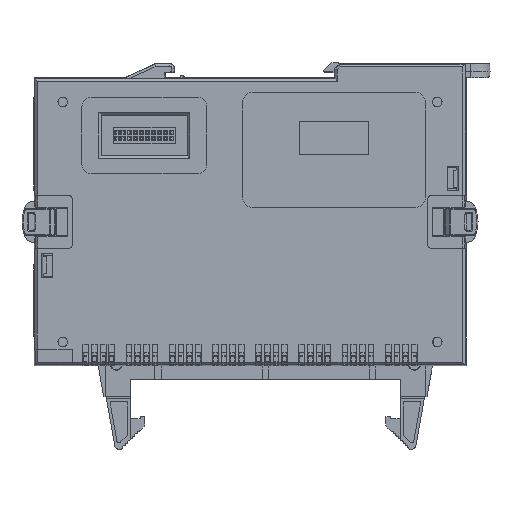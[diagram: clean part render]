
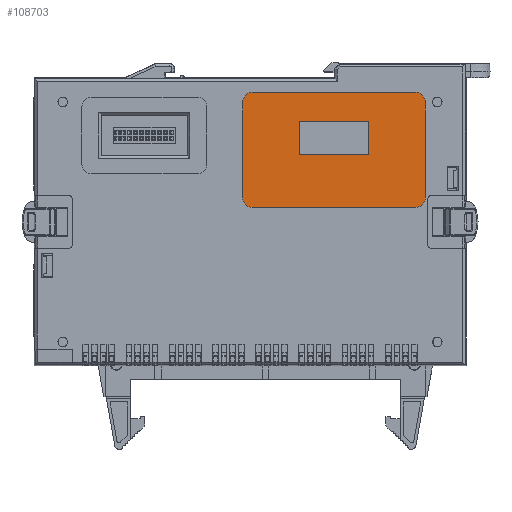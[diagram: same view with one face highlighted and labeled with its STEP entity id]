
A CAD part, left-side view. The second image highlights one B-rep face of the part: STEP entity #108703.
In plain terms, the highlighted planar face has unit normal (-1, 0, 0).
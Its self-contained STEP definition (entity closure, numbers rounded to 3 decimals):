
#911 = VECTOR ( 'NONE', #112579, 1000. ) ;
#1573 = DIRECTION ( 'NONE',  ( 0., 1., 0. ) ) ;
#3047 = ORIENTED_EDGE ( 'NONE', *, *, #83606, .F. ) ;
#4027 = EDGE_CURVE ( 'NONE', #125131, #102165, #14998, .T. ) ;
#5981 = EDGE_CURVE ( 'NONE', #47350, #19620, #6424, .T. ) ;
#6424 = CIRCLE ( 'NONE', #72035, 2. ) ;
#7837 = CARTESIAN_POINT ( 'NONE',  ( 95.144, -3.53, 61.4 ) ) ;
#7959 = CARTESIAN_POINT ( 'NONE',  ( 95.144, 6.22, 50.4 ) ) ;
#10362 = EDGE_CURVE ( 'NONE', #129480, #27140, #125534, .T. ) ;
#12809 = ORIENTED_EDGE ( 'NONE', *, *, #33534, .T. ) ;
#12904 = FACE_BOUND ( 'NONE', #54599, .T. ) ;
#14998 = LINE ( 'NONE', #70926, #121369 ) ;
#15646 = CARTESIAN_POINT ( 'NONE',  ( 95.144, -29.78, 52.4 ) ) ;
#16313 = DIRECTION ( 'NONE',  ( 0., 1., 0. ) ) ;
#16607 = DIRECTION ( 'NONE',  ( -1., 0., 0. ) ) ;
#19429 = DIRECTION ( 'NONE',  ( 0., 0., -1. ) ) ;
#19519 = VERTEX_POINT ( 'NONE', #57114 ) ;
#19589 = LINE ( 'NONE', #43648, #125898 ) ;
#19620 = VERTEX_POINT ( 'NONE', #112279 ) ;
#21852 = AXIS2_PLACEMENT_3D ( 'NONE', #138460, #74677, #54831 ) ;
#24264 = VECTOR ( 'NONE', #83618, 1000. ) ;
#26045 = AXIS2_PLACEMENT_3D ( 'NONE', #59534, #26219, #28300 ) ;
#26219 = DIRECTION ( 'NONE',  ( -1., 0., 0. ) ) ;
#27140 = VERTEX_POINT ( 'NONE', #7959 ) ;
#28300 = DIRECTION ( 'NONE',  ( 0., 0., 1. ) ) ;
#30322 = CARTESIAN_POINT ( 'NONE',  ( 95.144, -29.78, 72.4 ) ) ;
#33389 = ORIENTED_EDGE ( 'NONE', *, *, #5981, .T. ) ;
#33534 = EDGE_CURVE ( 'NONE', #61217, #47350, #100553, .T. ) ;
#34976 = CARTESIAN_POINT ( 'NONE',  ( 95.144, 6.22, 74.4 ) ) ;
#35272 = VERTEX_POINT ( 'NONE', #39453 ) ;
#35974 = VERTEX_POINT ( 'NONE', #88635 ) ;
#39453 = CARTESIAN_POINT ( 'NONE',  ( 95.144, -3.53, 61.4 ) ) ;
#39982 = EDGE_CURVE ( 'NONE', #140231, #61217, #58884, .T. ) ;
#42959 = EDGE_CURVE ( 'NONE', #19519, #129480, #117166, .T. ) ;
#43648 = CARTESIAN_POINT ( 'NONE',  ( 95.144, 6.22, 50.4 ) ) ;
#44473 = DIRECTION ( 'NONE',  ( -1., 0., 0. ) ) ;
#45171 = CARTESIAN_POINT ( 'NONE',  ( 95.144, -27.78, 52.4 ) ) ;
#46254 = CARTESIAN_POINT ( 'NONE',  ( 95.144, 6.22, 74.4 ) ) ;
#46963 = VECTOR ( 'NONE', #111379, 1000. ) ;
#47350 = VERTEX_POINT ( 'NONE', #30322 ) ;
#53268 = EDGE_CURVE ( 'NONE', #35272, #125131, #85706, .T. ) ;
#53433 = CARTESIAN_POINT ( 'NONE',  ( 95.144, 8.22, 52.4 ) ) ;
#54599 = EDGE_LOOP ( 'NONE', ( #3047, #113867, #125972, #70553 ) ) ;
#54831 = DIRECTION ( 'NONE',  ( 0., 0., -1. ) ) ;
#55412 = DIRECTION ( 'NONE',  ( -1., 0., 0. ) ) ;
#57114 = CARTESIAN_POINT ( 'NONE',  ( 95.144, 8.22, 72.4 ) ) ;
#58884 = CIRCLE ( 'NONE', #113117, 2. ) ;
#59534 = CARTESIAN_POINT ( 'NONE',  ( 95.144, 6.22, 52.4 ) ) ;
#59539 = LINE ( 'NONE', #79359, #71411 ) ;
#61217 = VERTEX_POINT ( 'NONE', #15646 ) ;
#61752 = CARTESIAN_POINT ( 'NONE',  ( 95.144, 8.22, 52.4 ) ) ;
#64902 = DIRECTION ( 'NONE',  ( 0., -1., 0. ) ) ;
#64925 = DIRECTION ( 'NONE',  ( 0., 0., -1. ) ) ;
#70553 = ORIENTED_EDGE ( 'NONE', *, *, #53268, .F. ) ;
#70926 = CARTESIAN_POINT ( 'NONE',  ( 95.144, -18.03, 61.4 ) ) ;
#71411 = VECTOR ( 'NONE', #16313, 1000. ) ;
#72035 = AXIS2_PLACEMENT_3D ( 'NONE', #114312, #16607, #134220 ) ;
#74677 = DIRECTION ( 'NONE',  ( -1., 0., 0. ) ) ;
#74780 = EDGE_CURVE ( 'NONE', #27140, #140231, #19589, .T. ) ;
#75944 = PLANE ( 'NONE',  #126614 ) ;
#76201 = EDGE_CURVE ( 'NONE', #137579, #19519, #82919, .T. ) ;
#78622 = CARTESIAN_POINT ( 'NONE',  ( 95.144, -29.78, 52.4 ) ) ;
#79359 = CARTESIAN_POINT ( 'NONE',  ( 95.144, -3.53, 68.4 ) ) ;
#80212 = LINE ( 'NONE', #46254, #46963 ) ;
#82919 = CIRCLE ( 'NONE', #21852, 2. ) ;
#83606 = EDGE_CURVE ( 'NONE', #35974, #35272, #110177, .T. ) ;
#83618 = DIRECTION ( 'NONE',  ( 0., -1., 0. ) ) ;
#85706 = LINE ( 'NONE', #7837, #24264 ) ;
#88635 = CARTESIAN_POINT ( 'NONE',  ( 95.144, -3.53, 68.4 ) ) ;
#92140 = DIRECTION ( 'NONE',  ( 0., 0., 1. ) ) ;
#97889 = CARTESIAN_POINT ( 'NONE',  ( 95.144, 6.72, 47.4 ) ) ;
#100553 = LINE ( 'NONE', #78622, #911 ) ;
#102165 = VERTEX_POINT ( 'NONE', #124520 ) ;
#104705 = EDGE_CURVE ( 'NONE', #19620, #137579, #80212, .T. ) ;
#105870 = ORIENTED_EDGE ( 'NONE', *, *, #39982, .T. ) ;
#108703 = ADVANCED_FACE ( 'NONE', ( #12904, #109200 ), #75944, .T. ) ;
#108779 = CARTESIAN_POINT ( 'NONE',  ( 95.144, -3.53, 61.4 ) ) ;
#108808 = EDGE_LOOP ( 'NONE', ( #130844, #128297, #127699, #114059, #105870, #12809, #33389, #135822 ) ) ;
#109200 = FACE_OUTER_BOUND ( 'NONE', #108808, .T. ) ;
#110177 = LINE ( 'NONE', #108779, #133883 ) ;
#111379 = DIRECTION ( 'NONE',  ( 0., 1., 0. ) ) ;
#112279 = CARTESIAN_POINT ( 'NONE',  ( 95.144, -27.78, 74.4 ) ) ;
#112579 = DIRECTION ( 'NONE',  ( 0., 0., 1. ) ) ;
#113117 = AXIS2_PLACEMENT_3D ( 'NONE', #45171, #44473, #131589 ) ;
#113867 = ORIENTED_EDGE ( 'NONE', *, *, #132855, .F. ) ;
#114059 = ORIENTED_EDGE ( 'NONE', *, *, #74780, .T. ) ;
#114312 = CARTESIAN_POINT ( 'NONE',  ( 95.144, -27.78, 72.4 ) ) ;
#117166 = LINE ( 'NONE', #53433, #118190 ) ;
#117686 = CARTESIAN_POINT ( 'NONE',  ( 95.144, -18.03, 61.4 ) ) ;
#118190 = VECTOR ( 'NONE', #19429, 1000. ) ;
#121369 = VECTOR ( 'NONE', #92140, 1000. ) ;
#124520 = CARTESIAN_POINT ( 'NONE',  ( 95.144, -18.03, 68.4 ) ) ;
#125090 = CARTESIAN_POINT ( 'NONE',  ( 95.144, -27.78, 50.4 ) ) ;
#125131 = VERTEX_POINT ( 'NONE', #117686 ) ;
#125534 = CIRCLE ( 'NONE', #26045, 2. ) ;
#125898 = VECTOR ( 'NONE', #64902, 1000. ) ;
#125972 = ORIENTED_EDGE ( 'NONE', *, *, #4027, .F. ) ;
#126614 = AXIS2_PLACEMENT_3D ( 'NONE', #97889, #55412, #1573 ) ;
#127699 = ORIENTED_EDGE ( 'NONE', *, *, #10362, .T. ) ;
#128297 = ORIENTED_EDGE ( 'NONE', *, *, #42959, .T. ) ;
#129480 = VERTEX_POINT ( 'NONE', #61752 ) ;
#130844 = ORIENTED_EDGE ( 'NONE', *, *, #76201, .T. ) ;
#131589 = DIRECTION ( 'NONE',  ( 0., 0., 1. ) ) ;
#132855 = EDGE_CURVE ( 'NONE', #102165, #35974, #59539, .T. ) ;
#133883 = VECTOR ( 'NONE', #64925, 1000. ) ;
#134220 = DIRECTION ( 'NONE',  ( 0., 0., 1. ) ) ;
#135822 = ORIENTED_EDGE ( 'NONE', *, *, #104705, .T. ) ;
#137579 = VERTEX_POINT ( 'NONE', #34976 ) ;
#138460 = CARTESIAN_POINT ( 'NONE',  ( 95.144, 6.22, 72.4 ) ) ;
#140231 = VERTEX_POINT ( 'NONE', #125090 ) ;
